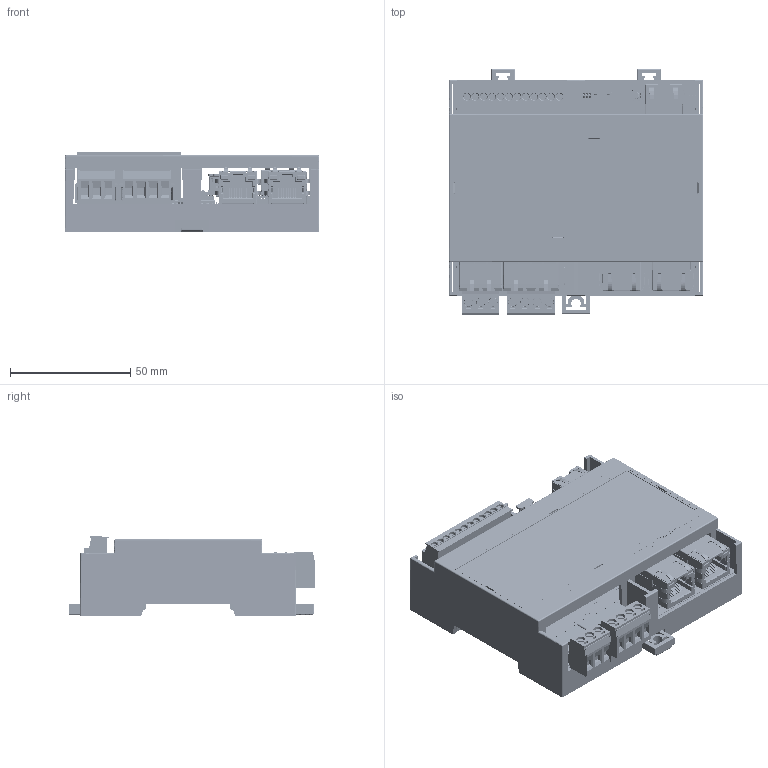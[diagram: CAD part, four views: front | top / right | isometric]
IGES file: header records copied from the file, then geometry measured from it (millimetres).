
Global section: file name: Inxpect CAD file C201B_7_00234_en_iges; native system: unknown; preprocessor: unknown; author: unknown; organization: unknown; date: 20230622.130327; units: millimetre
Bounding box: 106.2 x 102.53 x 33.25 mm (x, y, z)
Volume: 85621.4 mm3; surface area: 128339.1 mm2
Topology: 387 solids, 387 shells, 21974 faces, 60337 edges, 39498 vertices
Faces by surface type: bspline 21930, revolution 44
